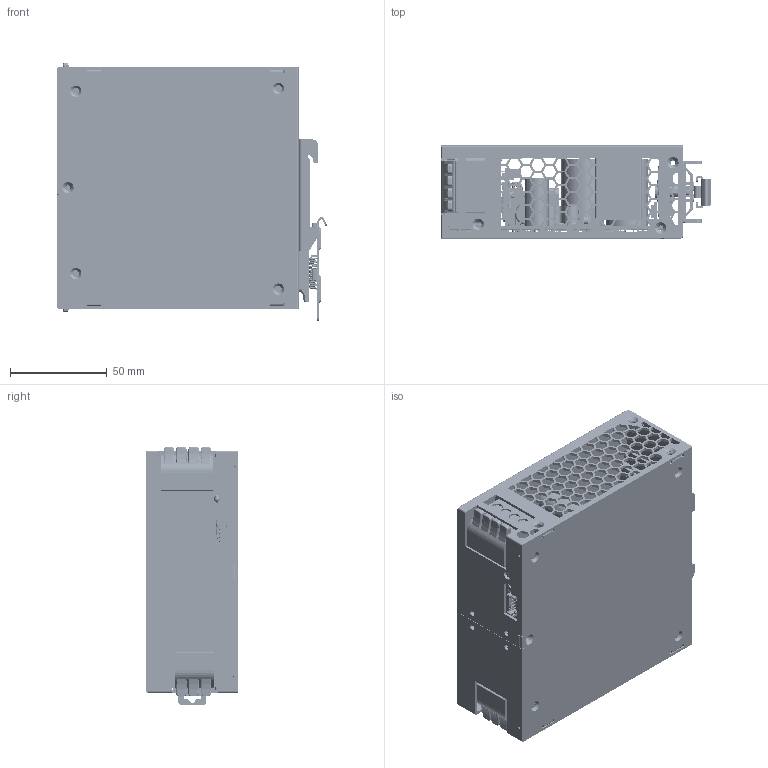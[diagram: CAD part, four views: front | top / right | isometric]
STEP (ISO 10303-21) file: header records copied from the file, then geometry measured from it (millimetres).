
FILE_DESCRIPTION(('Creo Elements/Direct Modeling STEP Export'),'2;1');
FILE_NAME('LA.stp','2025-12-02T10:07:58',(''),(''),'Creo Elements/Direct Modeling STEP processor for AP214 (Solid Model)','Creo Elements/Direct Modeling 19.0G 27-Nov-2017 (C) Parametric Technology GmbH','');
FILE_SCHEMA(('AUTOMOTIVE_DESIGN { 1 0 10303 214 1 1 1 1 }'));
Products named in the file (1197): 15.1; 15.3; 15.2; 挂座; 上盖; 下盖; 上下盖; 机壳; BOARD.PRT; C1210.PRT; C52.ASM; C51.ASM; C42.ASM; C43.ASM; C41.ASM; C53.ASM; 963923256.PRT; C77.ASM; C66.ASM; C76.ASM; C65.ASM; C62.ASM; C63.ASM; PCB.ASM; XDR-480E-R2X.step; EXTRUDED-4584.PRT; 1311829264.ASM; JP1.ASM; 645225336.PRT; C327.ASM; 645225032.PRT; C301.ASM; 645227616_1.PRT; 645227616_2.PRT; 645227616_3.PRT; 645227616_4.PRT; 645227616.ASM; R361.ASM; R362.ASM; 645227464_1.PRT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
Assembly tree (1784 placements, depth 12):
  BLA
    麦拉装配
      1HH2PSR-480E-B.1
      1HH2PSR-480E-A.1
      散热片
        PIN2-2.1.1
        PIN2-2.1
        hs1
    Led灯
      LED1_PRT-21380.ASM
        LED1_PRT-20940.PRT
    PCB.1
      XDR-480A-R0X2.step
        PCB.ASM
          FREE-MODELS.ASM
            XDR-480D-R1X.ASM
              F2.ASM
                PRODUCT_594600.ASM
                  _X2_96F64EF6_X0_4.PRT
              Q13.ASM
                2CDX-SOT23-837310.PRT
              Q10.ASM
                2CDX-SOT23-837310.PRT
              Q9.ASM
                2CDX-SOT23-837310.PRT
              D14.ASM
                2CDX-SMA-842036.PRT
              C34.ASM
                790792712.PRT
              R29.ASM
                790791192.ASM
                  790791192_4.PRT
                  790791192_3.PRT
                  790791192_2.PRT
                  790791192_1.PRT
              R22.ASM
                790781920.ASM
                  790781920_4.PRT
                  790781920_3.PRT
                  790781920_2.PRT
                  790781920_1.PRT
              R18.ASM
                790787392.ASM
                  790787392_4.PRT
                  790787392_3.PRT
                  790787392_2.PRT
                  790787392_1.PRT
              Q7.ASM
                2CDX-SOT23-837310.PRT
              C21.ASM
                790785112.PRT
              R24.ASM
                790781768.ASM
                  790781768_4.PRT
                  790781768_3.PRT
                  790781768_2.PRT
                  790781768_1.PRT
              BC2.ASM
                899822064.ASM  x2
                  EXTRUDED-836825.PRT
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Bounding box: 140.29 x 48 x 133.87 mm (x, y, z)
Volume: 237149.6 mm3; surface area: 298924.8 mm2
Topology: 1603 solids, 1603 shells, 45088 faces, 116954 edges, 75800 vertices
Faces by surface type: plane 26135, extrusion 10834, cylinder 5914, sphere 1546, torus 443, cone 159, bspline 52, revolution 5
Entity records: 745700 total; most frequent: CARTESIAN_POINT 266908, ORIENTED_EDGE 83766, DIRECTION 75284, EDGE_CURVE 41883, VECTOR 32133, LINE 29921, VERTEX_POINT 27361, AXIS2_PLACEMENT_3D 21573
